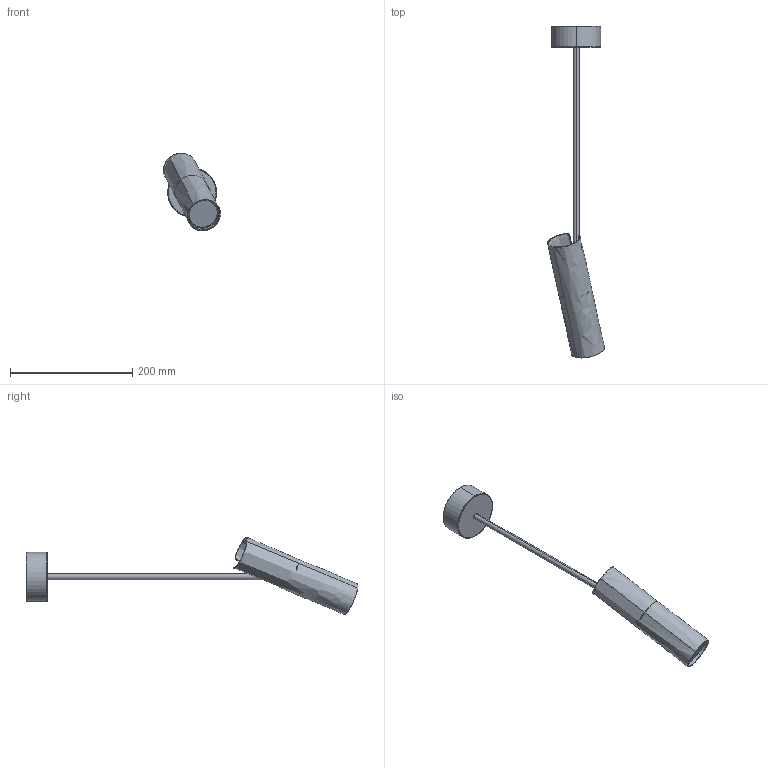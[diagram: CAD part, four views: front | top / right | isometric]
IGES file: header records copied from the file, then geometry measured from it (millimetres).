
Start section: SolidWorks IGES file using analytic representation for surfaces
Global section: file name: C:\Users\Asia\Desktop\EYE 1 ZWIS 56.IGS; native system: SolidWorks 2016; preprocessor: SolidWorks 2016; author: Asia; date: 160803.130223; units: millimetre
Bounding box: 93.26 x 543.04 x 126.71 mm (x, y, z)
Surface area: 108062.3 mm2 (no closed solid volume)
Topology: 0 solids, 0 shells, 58 faces, 1388 edges, 1388 vertices
Faces by surface type: revolution 34, bspline 24
